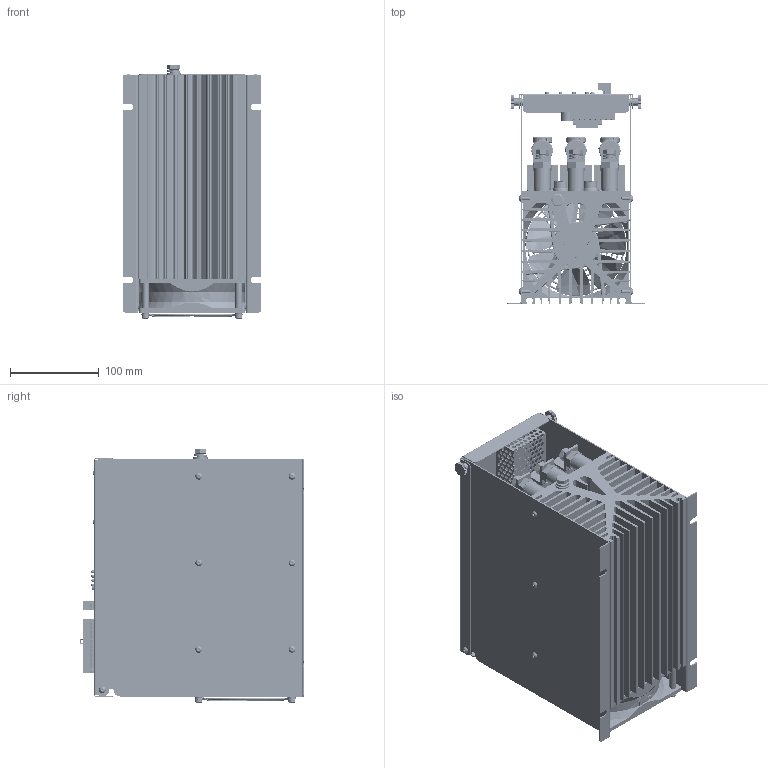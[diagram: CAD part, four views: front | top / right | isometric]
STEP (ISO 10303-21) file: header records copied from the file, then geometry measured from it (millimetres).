
FILE_DESCRIPTION(('STEP AP203'), '1');
FILE_NAME('ﾒﾐﾌ-3ﾌ-180 RS485', '', ('UNSPECIFIED'), ('UNSPECIFIED'), 'ASCON STEP Converter 1.6', 'ASCON Math Kernel', '');
FILE_SCHEMA(('CONFIG_CONTROL_DESIGN'));
Length unit declared in the file: millimetre
Products named in the file (65): -K190 RS485; МР 32.0031.08;  04;  05; МР 83.0400.07; МР 83.0603.06 СБ; M3x6; M3; -x12; МР 32.1000.04 01; DC; МР83.0400.02; МР 83.0608.18 СБ; M8x18; M8;  М4 Полиамидная; M4x10; МР 83.0035.04; МР 83.0400.08; МР 32.0200.04; -01; МР 83.0335.13; МР 83.0335.06; TR Fastenings Ltd-M4X-1; МР 83.0335.14; МР 83.0335.07; МР 83.0135.02; МР 83.0203.07; МР 83.0203.03; МР 83.0606.18; M6х18; M6; МР 83.0606.14 СБ; M6x14; M3x4; МР 83.0604.50 СБ; M4х50; M4; -ТРМ; x2
Assembly tree (171 placements, depth 3):
  (unnamed)
    -K190 RS485
    МР 32.0031.08
       04  x3
       05
    МР 83.0400.07  x6
    МР 83.0603.06 СБ  x12
      M3x6
      M3
      M3
    -x12
    МР 32.1000.04 01
    DC
    МР83.0400.02  x4
    МР 83.0608.18 СБ  x10
      M8x18
      M8
      M8
    (unnamed)
     М4 Полиамидная  x2
    M4x10  x2
    M4x10  x14
    (unnamed)
    МР 83.0035.04
    (unnamed)  x6
    МР 83.0400.08  x3
    (unnamed)  x3
    (unnamed)  x6
    МР 32.0200.04  x3
      (unnamed)
      (unnamed)
      -01
       04
    МР 83.0335.13
      МР 83.0335.06
      TR Fastenings Ltd-M4X-1  x2
    МР 83.0335.14
      МР 83.0335.07
      TR Fastenings Ltd-M4X-1  x2
    МР 83.0135.02
      МР 83.0135.02
      (unnamed)  x6
    (unnamed)  x3
    МР 83.0203.07  x3
    МР 83.0203.03  x3
    МР 83.0606.18  x6
      M6х18
      M6
      M6
    МР 83.0606.14 СБ  x9
      M6x14
      M6
      M6
    (unnamed)
      (unnamed)
      (unnamed)  x2
      (unnamed)  x2
      (unnamed)
      (unnamed)
    (unnamed)
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Bounding box: 155 x 253.12 x 286.29 mm (x, y, z)
Volume: 2597718.7 mm3; surface area: 1365911.4 mm2
Topology: 263 solids, 263 shells, 21379 faces, 59139 edges, 39121 vertices
Faces by surface type: cylinder 12002, plane 7897, bspline 986, cone 255, torus 169, revolution 50, sphere 20
Full cylindrical faces by diameter (mm): 0.7 x32, 0.8 x3, 1 x81, 1.1 x12, 1.4 x4, 1.5 x4, 1.8 x12, 2 x120, 2.4 x4, 2.459 x8, 3 x41, 3.1 x14, 3.2 x24, 3.3 x20, 3.4 x12, 3.9 x14, 4 x28, 4.2 x22, 4.3 x6, 4.5 x161, 4.572 x8, 4.917 x13, 4.95 x4, 5 x23, 5.3 x4, 5.38 x4, 5.4 x5, 6 x51, 6.1 x9, 6.4 x25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
Entity records: 769655 total; most frequent: CARTESIAN_POINT 181353, DIRECTION 102729, ORIENTED_EDGE 96046, EDGE_CURVE 48027, AXIS2_PLACEMENT_3D 39194, VERTEX_POINT 32241, LINE 24317, VECTOR 24317
